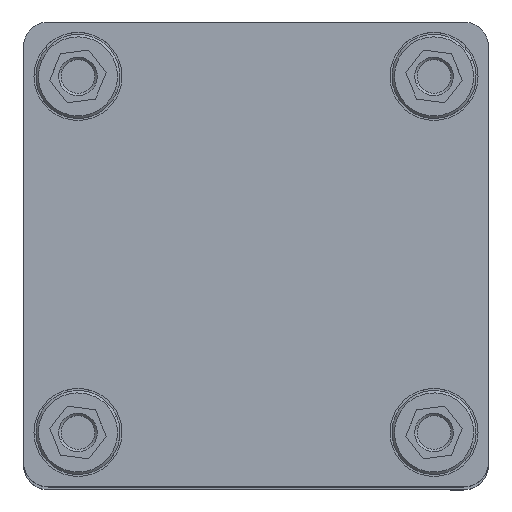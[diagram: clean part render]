
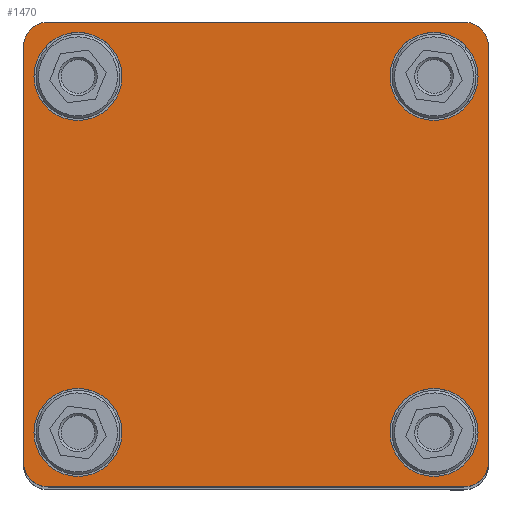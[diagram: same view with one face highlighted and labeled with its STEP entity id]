
A CAD part, top view. The second image highlights one B-rep face of the part: STEP entity #1470.
In plain terms, the highlighted planar face has unit normal (0, 0, 1) as drawn and (1, 0, 0) by its records, which use the part's own axes.
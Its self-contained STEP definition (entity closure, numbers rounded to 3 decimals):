
#16 = EDGE_CURVE ( 'NONE', #50244, #40797, #31626, .T. ) ;
#65 = DIRECTION ( 'NONE',  ( 1., 0., 0. ) ) ;
#1058 = EDGE_LOOP ( 'NONE', ( #4035, #41100 ) ) ;
#1112 = AXIS2_PLACEMENT_3D ( 'NONE', #31153, #29957, #49507 ) ;
#1123 = EDGE_CURVE ( 'NONE', #11756, #51335, #24873, .T. ) ;
#1369 = FACE_BOUND ( 'NONE', #21584, .T. ) ;
#1467 = ORIENTED_EDGE ( 'NONE', *, *, #1123, .T. ) ;
#1470 = ADVANCED_FACE ( 'NONE', ( #38101, #42895, #1369, #28768, #19733 ), #9808, .T. ) ;
#1802 = CARTESIAN_POINT ( 'NONE',  ( 0., -47., -42. ) ) ;
#2024 = CARTESIAN_POINT ( 'NONE',  ( 0., -36., 44.9 ) ) ;
#2382 = CARTESIAN_POINT ( 'NONE',  ( 0., -36., 27.1 ) ) ;
#2657 = ORIENTED_EDGE ( 'NONE', *, *, #36595, .F. ) ;
#2685 = ORIENTED_EDGE ( 'NONE', *, *, #41267, .F. ) ;
#2983 = DIRECTION ( 'NONE',  ( 0., 0., -1. ) ) ;
#2998 = EDGE_CURVE ( 'NONE', #50244, #56996, #6060, .T. ) ;
#4035 = ORIENTED_EDGE ( 'NONE', *, *, #23670, .F. ) ;
#4155 = CIRCLE ( 'NONE', #20467, 8.9 ) ;
#4457 = CIRCLE ( 'NONE', #10180, 5. ) ;
#5110 = VECTOR ( 'NONE', #28165, 1000. ) ;
#5295 = LINE ( 'NONE', #41712, #5110 ) ;
#5505 = VERTEX_POINT ( 'NONE', #26006 ) ;
#5937 = CARTESIAN_POINT ( 'NONE',  ( 0., -36., 36. ) ) ;
#6060 = LINE ( 'NONE', #16288, #14456 ) ;
#6721 = DIRECTION ( 'NONE',  ( 0., 0., -1. ) ) ;
#6947 = ORIENTED_EDGE ( 'NONE', *, *, #10292, .F. ) ;
#7671 = EDGE_CURVE ( 'NONE', #52844, #5505, #4457, .T. ) ;
#9519 = AXIS2_PLACEMENT_3D ( 'NONE', #14320, #56756, #33889 ) ;
#9591 = CARTESIAN_POINT ( 'NONE',  ( 0., -36., 36. ) ) ;
#9808 = PLANE ( 'NONE',  #9519 ) ;
#10081 = DIRECTION ( 'NONE',  ( 0., 0., -1. ) ) ;
#10180 = AXIS2_PLACEMENT_3D ( 'NONE', #24757, #20535, #25344 ) ;
#10292 = EDGE_CURVE ( 'NONE', #10514, #48719, #15554, .T. ) ;
#10398 = EDGE_CURVE ( 'NONE', #45634, #57451, #49214, .T. ) ;
#10514 = VERTEX_POINT ( 'NONE', #28694 ) ;
#10617 = DIRECTION ( 'NONE',  ( 1., 0., 0. ) ) ;
#11588 = EDGE_CURVE ( 'NONE', #22495, #51335, #45806, .T. ) ;
#11756 = VERTEX_POINT ( 'NONE', #1802 ) ;
#12095 = EDGE_CURVE ( 'NONE', #13255, #44854, #4155, .T. ) ;
#12272 = VERTEX_POINT ( 'NONE', #2024 ) ;
#12759 = LINE ( 'NONE', #17875, #50137 ) ;
#12976 = DIRECTION ( 'NONE',  ( 1., 0., 0. ) ) ;
#13149 = ORIENTED_EDGE ( 'NONE', *, *, #12095, .F. ) ;
#13255 = VERTEX_POINT ( 'NONE', #38539 ) ;
#13828 = DIRECTION ( 'NONE',  ( 0., 0., -1. ) ) ;
#14060 = CARTESIAN_POINT ( 'NONE',  ( 0., 47., -42. ) ) ;
#14261 = CIRCLE ( 'NONE', #58500, 8.9 ) ;
#14320 = CARTESIAN_POINT ( 'NONE',  ( 0., 0., 0. ) ) ;
#14386 = DIRECTION ( 'NONE',  ( 0., 0., -1. ) ) ;
#14456 = VECTOR ( 'NONE', #30728, 1000. ) ;
#14592 = EDGE_CURVE ( 'NONE', #22495, #56996, #26190, .T. ) ;
#15554 = CIRCLE ( 'NONE', #1112, 8.9 ) ;
#15674 = CIRCLE ( 'NONE', #49326, 8.9 ) ;
#16288 = CARTESIAN_POINT ( 'NONE',  ( 0., 47., -47. ) ) ;
#16839 = CARTESIAN_POINT ( 'NONE',  ( 0., -42., -42. ) ) ;
#17176 = CARTESIAN_POINT ( 'NONE',  ( 0., 42., 47. ) ) ;
#17265 = ORIENTED_EDGE ( 'NONE', *, *, #7671, .T. ) ;
#17875 = CARTESIAN_POINT ( 'NONE',  ( 0., -47., 47. ) ) ;
#17979 = ORIENTED_EDGE ( 'NONE', *, *, #55023, .F. ) ;
#18915 = CARTESIAN_POINT ( 'NONE',  ( 0., 36., -36. ) ) ;
#19733 = FACE_OUTER_BOUND ( 'NONE', #49675, .T. ) ;
#20467 = AXIS2_PLACEMENT_3D ( 'NONE', #18915, #51402, #14386 ) ;
#20535 = DIRECTION ( 'NONE',  ( 1., 0., 0. ) ) ;
#21584 = EDGE_LOOP ( 'NONE', ( #2657, #13149 ) ) ;
#22483 = CARTESIAN_POINT ( 'NONE',  ( 0., -36., -36. ) ) ;
#22495 = VERTEX_POINT ( 'NONE', #25630 ) ;
#23259 = AXIS2_PLACEMENT_3D ( 'NONE', #28987, #10617, #51570 ) ;
#23617 = EDGE_LOOP ( 'NONE', ( #30533, #2685 ) ) ;
#23670 = EDGE_CURVE ( 'NONE', #38080, #12272, #24660, .T. ) ;
#23929 = AXIS2_PLACEMENT_3D ( 'NONE', #49695, #12976, #31337 ) ;
#24660 = CIRCLE ( 'NONE', #48674, 8.9 ) ;
#24757 = CARTESIAN_POINT ( 'NONE',  ( 0., -42., 42. ) ) ;
#24873 = CIRCLE ( 'NONE', #58539, 5. ) ;
#25226 = CARTESIAN_POINT ( 'NONE',  ( 0., -42., -47. ) ) ;
#25344 = DIRECTION ( 'NONE',  ( 0., 0., -1. ) ) ;
#25630 = CARTESIAN_POINT ( 'NONE',  ( 0., 42., -47. ) ) ;
#26006 = CARTESIAN_POINT ( 'NONE',  ( 0., -47., 42. ) ) ;
#26190 = CIRCLE ( 'NONE', #56950, 5. ) ;
#26346 = CIRCLE ( 'NONE', #49405, 8.9 ) ;
#26551 = DIRECTION ( 'NONE',  ( 0., -1., 0. ) ) ;
#27725 = CARTESIAN_POINT ( 'NONE',  ( 0., -47., -47. ) ) ;
#27809 = CARTESIAN_POINT ( 'NONE',  ( 0., 36., 27.1 ) ) ;
#27927 = DIRECTION ( 'NONE',  ( 0., 0., -1. ) ) ;
#27960 = DIRECTION ( 'NONE',  ( 1., 0., 0. ) ) ;
#28165 = DIRECTION ( 'NONE',  ( 0., 0., 1. ) ) ;
#28694 = CARTESIAN_POINT ( 'NONE',  ( 0., -36., -27.1 ) ) ;
#28768 = FACE_BOUND ( 'NONE', #23617, .T. ) ;
#28987 = CARTESIAN_POINT ( 'NONE',  ( 0., 36., 36. ) ) ;
#29605 = CARTESIAN_POINT ( 'NONE',  ( 0., 42., -42. ) ) ;
#29957 = DIRECTION ( 'NONE',  ( 1., 0., 0. ) ) ;
#30533 = ORIENTED_EDGE ( 'NONE', *, *, #10398, .F. ) ;
#30728 = DIRECTION ( 'NONE',  ( 0., 0., -1. ) ) ;
#31153 = CARTESIAN_POINT ( 'NONE',  ( 0., -36., -36. ) ) ;
#31337 = DIRECTION ( 'NONE',  ( 0., 0., -1. ) ) ;
#31341 = AXIS2_PLACEMENT_3D ( 'NONE', #5937, #33641, #27927 ) ;
#31626 = CIRCLE ( 'NONE', #23929, 5. ) ;
#31686 = DIRECTION ( 'NONE',  ( 0., 0., -1. ) ) ;
#31706 = DIRECTION ( 'NONE',  ( 0., 1., 0. ) ) ;
#32732 = EDGE_CURVE ( 'NONE', #12272, #38080, #32751, .T. ) ;
#32751 = CIRCLE ( 'NONE', #31341, 8.9 ) ;
#33641 = DIRECTION ( 'NONE',  ( 1., 0., 0. ) ) ;
#33889 = DIRECTION ( 'NONE',  ( 0., 0., -1. ) ) ;
#34067 = CARTESIAN_POINT ( 'NONE',  ( 0., -42., 47. ) ) ;
#36595 = EDGE_CURVE ( 'NONE', #44854, #13255, #14261, .T. ) ;
#38080 = VERTEX_POINT ( 'NONE', #2382 ) ;
#38101 = FACE_BOUND ( 'NONE', #48595, .T. ) ;
#38373 = DIRECTION ( 'NONE',  ( 1., 0., 0. ) ) ;
#38539 = CARTESIAN_POINT ( 'NONE',  ( 0., 36., -27.1 ) ) ;
#40797 = VERTEX_POINT ( 'NONE', #17176 ) ;
#40835 = DIRECTION ( 'NONE',  ( 0., 0., -1. ) ) ;
#41100 = ORIENTED_EDGE ( 'NONE', *, *, #32732, .F. ) ;
#41267 = EDGE_CURVE ( 'NONE', #57451, #45634, #26346, .T. ) ;
#41712 = CARTESIAN_POINT ( 'NONE',  ( 0., -47., -47. ) ) ;
#42895 = FACE_BOUND ( 'NONE', #1058, .T. ) ;
#43647 = DIRECTION ( 'NONE',  ( 1., 0., 0. ) ) ;
#43689 = CARTESIAN_POINT ( 'NONE',  ( 0., 36., 44.9 ) ) ;
#44772 = DIRECTION ( 'NONE',  ( 1., 0., 0. ) ) ;
#44854 = VERTEX_POINT ( 'NONE', #47481 ) ;
#44996 = EDGE_CURVE ( 'NONE', #48719, #10514, #15674, .T. ) ;
#45240 = CARTESIAN_POINT ( 'NONE',  ( 0., 36., -36. ) ) ;
#45287 = EDGE_CURVE ( 'NONE', #11756, #5505, #5295, .T. ) ;
#45634 = VERTEX_POINT ( 'NONE', #27809 ) ;
#45806 = LINE ( 'NONE', #27725, #56953 ) ;
#46793 = ORIENTED_EDGE ( 'NONE', *, *, #45287, .F. ) ;
#47103 = CARTESIAN_POINT ( 'NONE',  ( 0., 36., 36. ) ) ;
#47481 = CARTESIAN_POINT ( 'NONE',  ( 0., 36., -44.9 ) ) ;
#48595 = EDGE_LOOP ( 'NONE', ( #56085, #6947 ) ) ;
#48674 = AXIS2_PLACEMENT_3D ( 'NONE', #9591, #27960, #13828 ) ;
#48719 = VERTEX_POINT ( 'NONE', #50610 ) ;
#49214 = CIRCLE ( 'NONE', #23259, 8.9 ) ;
#49326 = AXIS2_PLACEMENT_3D ( 'NONE', #22483, #44772, #40835 ) ;
#49405 = AXIS2_PLACEMENT_3D ( 'NONE', #47103, #38373, #10081 ) ;
#49507 = DIRECTION ( 'NONE',  ( 0., 0., -1. ) ) ;
#49675 = EDGE_LOOP ( 'NONE', ( #17979, #17265, #46793, #1467, #58286, #55612, #51929, #52269 ) ) ;
#49695 = CARTESIAN_POINT ( 'NONE',  ( 0., 42., 42. ) ) ;
#50137 = VECTOR ( 'NONE', #31706, 1000. ) ;
#50244 = VERTEX_POINT ( 'NONE', #56516 ) ;
#50610 = CARTESIAN_POINT ( 'NONE',  ( 0., -36., -44.9 ) ) ;
#51335 = VERTEX_POINT ( 'NONE', #25226 ) ;
#51402 = DIRECTION ( 'NONE',  ( 1., 0., 0. ) ) ;
#51570 = DIRECTION ( 'NONE',  ( 0., 0., -1. ) ) ;
#51929 = ORIENTED_EDGE ( 'NONE', *, *, #2998, .F. ) ;
#52269 = ORIENTED_EDGE ( 'NONE', *, *, #16, .T. ) ;
#52844 = VERTEX_POINT ( 'NONE', #34067 ) ;
#55023 = EDGE_CURVE ( 'NONE', #52844, #40797, #12759, .T. ) ;
#55612 = ORIENTED_EDGE ( 'NONE', *, *, #14592, .T. ) ;
#56085 = ORIENTED_EDGE ( 'NONE', *, *, #44996, .F. ) ;
#56516 = CARTESIAN_POINT ( 'NONE',  ( 0., 47., 42. ) ) ;
#56756 = DIRECTION ( 'NONE',  ( 1., 0., 0. ) ) ;
#56950 = AXIS2_PLACEMENT_3D ( 'NONE', #29605, #58412, #6721 ) ;
#56953 = VECTOR ( 'NONE', #26551, 1000. ) ;
#56996 = VERTEX_POINT ( 'NONE', #14060 ) ;
#57451 = VERTEX_POINT ( 'NONE', #43689 ) ;
#58286 = ORIENTED_EDGE ( 'NONE', *, *, #11588, .F. ) ;
#58412 = DIRECTION ( 'NONE',  ( 1., 0., 0. ) ) ;
#58500 = AXIS2_PLACEMENT_3D ( 'NONE', #45240, #65, #31686 ) ;
#58539 = AXIS2_PLACEMENT_3D ( 'NONE', #16839, #43647, #2983 ) ;
